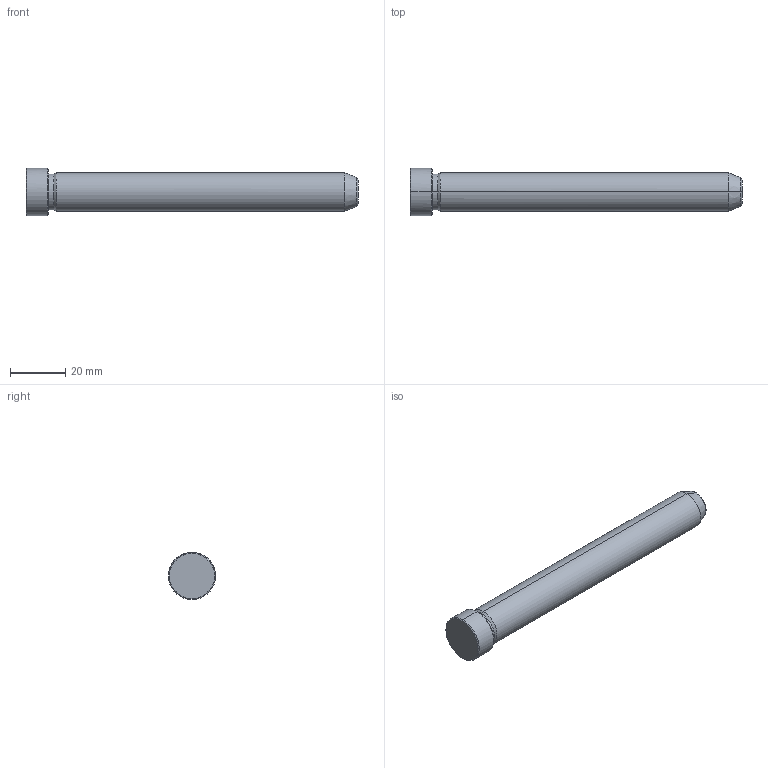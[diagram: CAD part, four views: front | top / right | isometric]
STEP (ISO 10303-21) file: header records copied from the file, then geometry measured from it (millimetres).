
FILE_DESCRIPTION(('CATIA V5 STEP Exchange'),'2;1');
FILE_NAME('C:\Users\Utente\Desktop\IO LAVORO\3D X SITO CF\X SITO\PLASTICA\549\549-14X120.stp','2021-12-11T09:25:58+00:00',('none'),('none'),'CATIA Version 5 Release 20 GA (IN-10)','CATIA V5 STEP AP203','none');
FILE_SCHEMA(('CONFIG_CONTROL_DESIGN'));
Length unit declared in the file: millimetre
Products named in the file (1): 549-14X120
Bounding box: 120 x 17 x 17 mm (x, y, z)
Volume: 18797.2 mm3; surface area: 5709.2 mm2
Topology: 1 solids, 1 shells, 19 faces, 56 edges, 40 vertices
Faces by surface type: cone 8, cylinder 6, plane 3, torus 2
Entity records: 736 total; most frequent: CARTESIAN_POINT 192, ORIENTED_EDGE 112, DIRECTION 86, EDGE_CURVE 56, AXIS2_PLACEMENT_3D 54, VERTEX_POINT 40, CIRCLE 34, EDGE_LOOP 20
